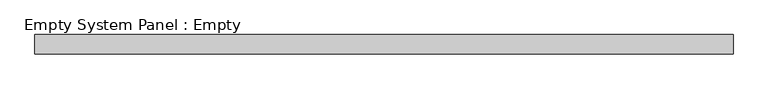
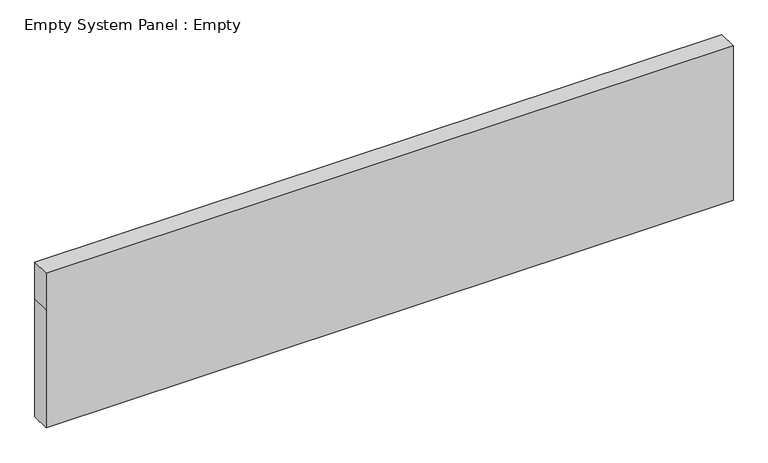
"""IFC4 building model written with IfcOpenShell, lengths in millimetres: plate geometry, Empty System Panel : Empty."""

import ifcopenshell
import ifcopenshell.guid

model = None  # the IFC model being written
_history = None  # IfcOwnerHistory: only IFC2X3 demands one
_inside = {}  # id of a spatial element -> (the spatial element, [elements in it])
_under = {}  # id of a project, library or spatial element -> (it, [spatial elements below it])
_declared = {}  # id of a project -> (the project, [libraries it declares])
_typed = {}  # id of a type object -> (the type object, [elements of that type])
_made_of = {}  # id of a material, layer set ... -> (it, [elements and type objects made of it])


def new_model(schema):
    """Start an empty IFC model of exactly this schema.

    Asked for "IFC4X3", IfcOpenShell would pick the latest addendum, in which some entities
    have other attributes; the version numbers below select the first issue.
    IFC2X3 requires an IfcOwnerHistory on every rooted entity: one is made here for all.
    """
    global model, _history
    if schema == "IFC4X3":
        model = ifcopenshell.file(schema_version=(4, 3, 0, 0))
    else:
        model = ifcopenshell.file(schema=schema)
    _inside.clear()
    _under.clear()
    _declared.clear()
    _typed.clear()
    _made_of.clear()
    _history = None
    if model.schema == "IFC2X3":
        org = make("IfcOrganization", Name="unknown")
        user = make(
            "IfcPersonAndOrganization",
            ThePerson=make("IfcPerson", FamilyName="unknown"),
            TheOrganization=org,
        )
        app = make(
            "IfcApplication",
            ApplicationDeveloper=org,
            Version="unknown",
            ApplicationFullName="unknown",
            ApplicationIdentifier="unknown",
        )
        _history = make(
            "IfcOwnerHistory",
            OwningUser=user,
            OwningApplication=app,
            ChangeAction="ADDED",
            CreationDate=0,
        )
    return model


def make(cls, **values):
    """One entity of the class cls with the attributes given. An attribute that is None is left unset."""
    return model.create_entity(
        cls, **{name: value for name, value in values.items() if value is not None}
    )


def rooted(cls, **values):
    """An entity with a GlobalId (a new one), such as an element, a storey or a relation."""
    return make(cls, GlobalId=ifcopenshell.guid.new(), OwnerHistory=_history, **values)


def si_unit(unit_type, name, prefix=None):
    """IfcSIUnit, for example si_unit("LENGTHUNIT", "METRE", prefix="MILLI")."""
    return make("IfcSIUnit", UnitType=unit_type, Prefix=prefix, Name=name)


def assignment(units):
    """IfcUnitAssignment: the units of a project."""
    return None if units is None else make("IfcUnitAssignment", Units=units)


def point(xyz):
    """IfcCartesianPoint."""
    return None if xyz is None else make("IfcCartesianPoint", Coordinates=xyz)


def direction(xyz):
    """IfcDirection."""
    return None if xyz is None else make("IfcDirection", DirectionRatios=xyz)


def frame(location, z_axis=None, x_axis=None):
    """IfcAxis2Placement3D, a coordinate frame: its origin and axes. An axis left out is left unset."""
    return make(
        "IfcAxis2Placement3D",
        Location=point(location),
        Axis=direction(z_axis),
        RefDirection=direction(x_axis),
    )


def origin():
    """The frame at (0, 0, 0) with its axes left unset."""
    return frame((0.0, 0.0, 0.0))


def place(relative_to, where):
    """IfcLocalPlacement: puts the frame where relative to a parent placement (None: the world)."""
    return make(
        "IfcLocalPlacement", PlacementRelTo=relative_to, RelativePlacement=where
    )


def context(
    kind, dimensions, precision=None, world=None, true_north=None, identifier=None
):
    """IfcGeometricRepresentationContext, for example the 3D "Model" context."""
    return make(
        "IfcGeometricRepresentationContext",
        ContextIdentifier=identifier,
        ContextType=kind,
        CoordinateSpaceDimension=dimensions,
        Precision=precision,
        WorldCoordinateSystem=world,
        TrueNorth=true_north,
    )


def project(units=None, contexts=None):
    """IfcProject with its units and contexts."""
    return rooted(
        "IfcProject",
        Name="project",
        RepresentationContexts=contexts,
        UnitsInContext=assignment(units),
    )


def spatial(cls, under=None, at=None, **own):
    """A site, building, storey or space (cls), placed at a placement, below another one or the project."""
    s = rooted(cls, ObjectPlacement=at, **own)
    if under is not None:
        _under.setdefault(under.id(), (under, []))[1].append(s)
    return s


def polyline(points):
    """IfcPolyline through the points."""
    return make("IfcPolyline", Points=[point(p) for p in points])


def outline(outer, holes=None, kind="AREA"):
    """IfcArbitraryClosedProfileDef: a profile drawn as a closed curve; with holes, ...WithVoids."""
    if holes is None:
        return make("IfcArbitraryClosedProfileDef", ProfileType=kind, OuterCurve=outer)
    return make(
        "IfcArbitraryProfileDefWithVoids",
        ProfileType=kind,
        OuterCurve=outer,
        InnerCurves=holes,
    )


def extrude(swept, where, along, depth):
    """IfcExtrudedAreaSolid: the profile swept, set in the frame where, extruded along a direction by depth."""
    return make(
        "IfcExtrudedAreaSolid",
        SweptArea=swept,
        Position=where,
        ExtrudedDirection=direction(along),
        Depth=depth,
    )


def shape(context_of_items, identifier, shape_type, items):
    """IfcShapeRepresentation: the items that make up one representation, for example the "Body"."""
    return make(
        "IfcShapeRepresentation",
        ContextOfItems=context_of_items,
        RepresentationIdentifier=identifier,
        RepresentationType=shape_type,
        Items=items,
    )


def source(mapping_origin, context_of_items, identifier, shape_type, items):
    """IfcRepresentationMap: a shape defined once, which mapped items show again and again."""
    return make(
        "IfcRepresentationMap",
        MappingOrigin=mapping_origin,
        MappedRepresentation=shape(context_of_items, identifier, shape_type, items),
    )


def transform(
    local_origin,
    x_axis=None,
    y_axis=None,
    z_axis=None,
    scale=None,
    scale2=None,
    scale3=None,
    uniform=True,
):
    """IfcCartesianTransformationOperator3D, or its non-uniform kind. x_axis, y_axis, z_axis: its Axis1, 2, 3."""
    if uniform:
        return make(
            "IfcCartesianTransformationOperator3D",
            Axis1=direction(x_axis),
            Axis2=direction(y_axis),
            LocalOrigin=point(local_origin),
            Scale=scale,
            Axis3=direction(z_axis),
        )
    return make(
        "IfcCartesianTransformationOperator3DnonUniform",
        Axis1=direction(x_axis),
        Axis2=direction(y_axis),
        LocalOrigin=point(local_origin),
        Scale=scale,
        Axis3=direction(z_axis),
        Scale2=scale2,
        Scale3=scale3,
    )


def mapped(mapping_source, mapping_target):
    """IfcMappedItem: shows the shape of a source again, moved by a transform."""
    return make(
        "IfcMappedItem", MappingSource=mapping_source, MappingTarget=mapping_target
    )


def made_of(thing, what):
    """Note that an element or type object is made of a material, layer set ...; save() writes the relation."""
    if what is not None:
        _made_of.setdefault(what.id(), (what, []))[1].append(thing)
    return thing


def element(
    cls,
    number,
    at=None,
    inside=None,
    cuts=None,
    type_object=None,
    material=None,
    context=None,
    identifier="Body",
    shape_type=None,
    held_by="IfcProductDefinitionShape",
    body=None,
    shapes=None,
    **own,
):
    """One element of the class cls, such as IfcWall. Its Tag is "e" and its number.

    at: its placement. inside: the storey or other place that contains it. cuts: it is an
    opening in that element (IfcRelVoidsElement). A single representation is given by context,
    identifier, shape_type and body (its items); several are given by shapes. held_by: the class
    of the entity that holds the representations. save() writes the other relations.
    """
    e = rooted(cls, Tag="e%d" % number, ObjectPlacement=at, **own)
    if body is not None:
        shapes = [shape(context, identifier, shape_type, body)]
    if shapes is not None:
        e.Representation = make(held_by, Representations=shapes)
    if inside is not None:
        _inside.setdefault(inside.id(), (inside, []))[1].append(e)
    if cuts is not None:
        rooted(
            "IfcRelVoidsElement", RelatingBuildingElement=cuts, RelatedOpeningElement=e
        )
    if type_object is not None:
        _typed.setdefault(type_object.id(), (type_object, []))[1].append(e)
    return made_of(e, material)


def aggregate(whole, parts):
    """IfcRelAggregates: a whole, such as a stair, and the parts it consists of."""
    return rooted("IfcRelAggregates", RelatingObject=whole, RelatedObjects=parts)


def save(model, path):
    """Write the relations noted so far, then the file.

    IfcRelAggregates (storeys below a building ...), IfcRelContainedInSpatialStructure (elements
    in a storey), IfcRelDefinesByType, IfcRelAssociatesMaterial and IfcRelDeclares: one each for
    every whole, place, type object, material and project.
    """
    for whole, parts in _under.values():
        aggregate(whole, parts)
    for where, things in _inside.values():
        rooted(
            "IfcRelContainedInSpatialStructure",
            RelatedElements=things,
            RelatingStructure=where,
        )
    for kind, things in _typed.values():
        rooted("IfcRelDefinesByType", RelatedObjects=things, RelatingType=kind)
    for what, things in _made_of.values():
        rooted("IfcRelAssociatesMaterial", RelatedObjects=things, RelatingMaterial=what)
    for by, libraries in _declared.values():
        rooted("IfcRelDeclares", RelatingContext=by, RelatedDefinitions=libraries)
    model.write(path)


def empty_system_panel_empty_c0a390db(model_context):
    return source(origin(), model_context, "Body", "SweptSolid", [
        extrude(outline(polyline([(0.0, -1787.5), (0.0, 1787.5), (650.0, 1787.5), (850.0, 1787.5), (850.0, -1787.5), (650.0, -1787.5), (0.0, -1787.5)])), frame((0.0, -50.0, 0.0), z_axis=(0.0, 1.0, 0.0), x_axis=(0.0, 0.0, 1.0)), (0.0, 0.0, 1.0), 100.0),
    ])


if __name__ == "__main__":
    model = new_model("IFC4")
    model_context = context("Model", 3, world=origin())
    ifc_project = project(units=[si_unit("LENGTHUNIT", "METRE", prefix="MILLI")], contexts=[model_context])
    site = spatial("IfcSite", under=ifc_project)
    building = spatial("IfcBuilding", under=site)
    placement = place(None, origin())
    empty_system_panel_empty_shape = empty_system_panel_empty_c0a390db(model_context)
    element("IfcPlate", 1, ObjectType="Empty System Panel : Empty", at=placement, inside=building, context=model_context, shape_type="MappedRepresentation", body=[
        mapped(empty_system_panel_empty_shape, transform((0.0, 0.0, 0.0), x_axis=(1.0, 0.0, 0.0), y_axis=(0.0, 1.0, 0.0), z_axis=(0.0, 0.0, 1.0))),
    ])
    save(model, "model.ifc")
